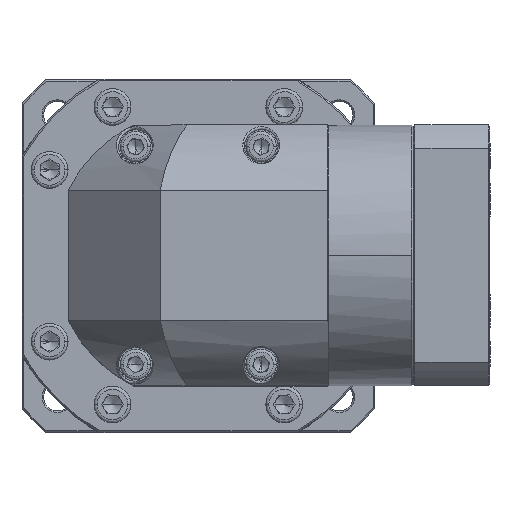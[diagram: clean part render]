
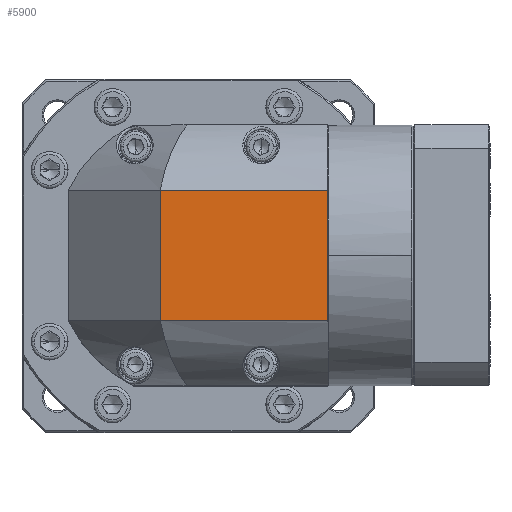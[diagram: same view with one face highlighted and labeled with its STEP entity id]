
A CAD part, top view. The second image highlights one B-rep face of the part: STEP entity #5900.
In plain terms, the highlighted planar face has unit normal (0, 0, 1).
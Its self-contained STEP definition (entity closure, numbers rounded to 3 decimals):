
#5900 = ADVANCED_FACE ( 'NONE', ( #83429 ), #49640, .T. ) ;
#7283 = DIRECTION ( 'NONE',  ( 1., 0., 0. ) ) ;
#15725 = VECTOR ( 'NONE', #7283, 1000. ) ;
#20341 = DIRECTION ( 'NONE',  ( 0., 1., 0. ) ) ;
#20850 = VECTOR ( 'NONE', #132644, 1000. ) ;
#22189 = CARTESIAN_POINT ( 'NONE',  ( 46.943, 115.185, 59.177 ) ) ;
#27190 = CARTESIAN_POINT ( 'NONE',  ( 101.443, 72.759, 59.177 ) ) ;
#45838 = LINE ( 'NONE', #64271, #20850 ) ;
#49640 = PLANE ( 'NONE',  #142430 ) ;
#51354 = ORIENTED_EDGE ( 'NONE', *, *, #117702, .F. ) ;
#55526 = VECTOR ( 'NONE', #20341, 1000. ) ;
#64271 = CARTESIAN_POINT ( 'NONE',  ( 1.443, 72.759, 59.177 ) ) ;
#64431 = CARTESIAN_POINT ( 'NONE',  ( 1.443, 115.185, 59.177 ) ) ;
#65069 = CARTESIAN_POINT ( 'NONE',  ( 101.443, 93.972, 59.177 ) ) ;
#75134 = VERTEX_POINT ( 'NONE', #27190 ) ;
#76967 = VERTEX_POINT ( 'NONE', #22189 ) ;
#78003 = LINE ( 'NONE', #64431, #15725 ) ;
#83429 = FACE_OUTER_BOUND ( 'NONE', #99146, .T. ) ;
#85727 = EDGE_CURVE ( 'NONE', #75134, #123498, #141438, .T. ) ;
#94215 = EDGE_CURVE ( 'NONE', #76967, #123498, #78003, .T. ) ;
#96102 = CARTESIAN_POINT ( 'NONE',  ( 46.943, 93.972, 59.177 ) ) ;
#97519 = DIRECTION ( 'NONE',  ( 1., 0., 0. ) ) ;
#97587 = CARTESIAN_POINT ( 'NONE',  ( 101.443, 115.185, 59.177 ) ) ;
#99146 = EDGE_LOOP ( 'NONE', ( #136703, #51354, #141910, #127211 ) ) ;
#103953 = VECTOR ( 'NONE', #132444, 1000. ) ;
#109449 = DIRECTION ( 'NONE',  ( 0., 0., 1. ) ) ;
#112906 = CARTESIAN_POINT ( 'NONE',  ( 46.943, 72.759, 59.177 ) ) ;
#116233 = LINE ( 'NONE', #96102, #55526 ) ;
#117702 = EDGE_CURVE ( 'NONE', #136589, #76967, #116233, .T. ) ;
#119631 = EDGE_CURVE ( 'NONE', #75134, #136589, #45838, .T. ) ;
#123498 = VERTEX_POINT ( 'NONE', #97587 ) ;
#127211 = ORIENTED_EDGE ( 'NONE', *, *, #85727, .T. ) ;
#132444 = DIRECTION ( 'NONE',  ( 0., 1., 0. ) ) ;
#132644 = DIRECTION ( 'NONE',  ( -1., 0., 0. ) ) ;
#132882 = CARTESIAN_POINT ( 'NONE',  ( 59.443, 93.972, 59.177 ) ) ;
#136589 = VERTEX_POINT ( 'NONE', #112906 ) ;
#136703 = ORIENTED_EDGE ( 'NONE', *, *, #94215, .F. ) ;
#141438 = LINE ( 'NONE', #65069, #103953 ) ;
#141910 = ORIENTED_EDGE ( 'NONE', *, *, #119631, .F. ) ;
#142430 = AXIS2_PLACEMENT_3D ( 'NONE', #132882, #109449, #97519 ) ;
